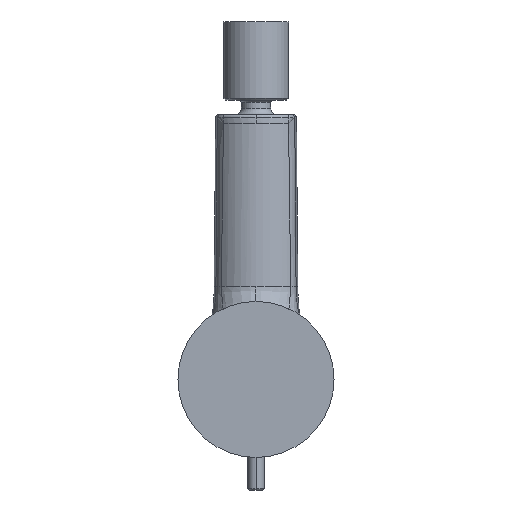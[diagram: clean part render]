
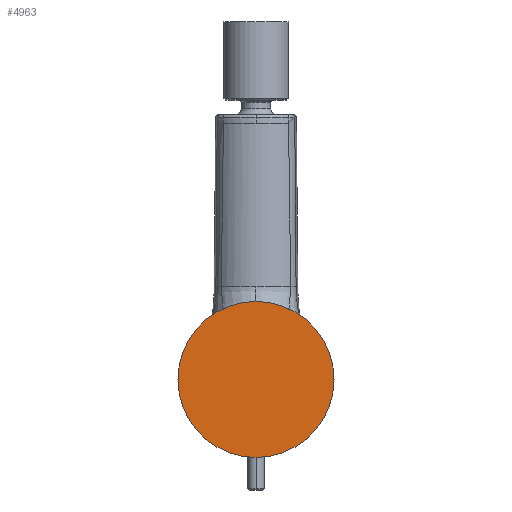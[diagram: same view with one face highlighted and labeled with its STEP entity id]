
A CAD part, front view. The second image highlights one B-rep face of the part: STEP entity #4963.
In plain terms, the highlighted planar face has unit normal (0, -1, 0).
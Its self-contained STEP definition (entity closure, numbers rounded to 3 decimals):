
#716=CARTESIAN_POINT('',(0.,-4.,0.));
#717=DIRECTION('',(0.,-1.,0.));
#718=DIRECTION('',(1.,0.,0.));
#719=AXIS2_PLACEMENT_3D('',#716,#717,#718);
#730=CARTESIAN_POINT('',(0.,-4.,0.));
#731=DIRECTION('',(0.,1.,0.));
#732=DIRECTION('',(1.,0.,0.));
#733=AXIS2_PLACEMENT_3D('',#730,#731,#732);
#2923=CARTESIAN_POINT('',(24.,-4.,0.));
#2924=CARTESIAN_POINT('',(-24.,-4.,0.));
#2925=VERTEX_POINT('',#2923);
#2926=VERTEX_POINT('',#2924);
#4954=CARTESIAN_POINT('',(0.,-4.,0.));
#4955=DIRECTION('',(0.,-1.,0.));
#4956=DIRECTION('',(0.,0.,-1.));
#4957=AXIS2_PLACEMENT_3D('',#4954,#4955,#4956);
#4958=PLANE('',#4957);
#4959=ORIENTED_EDGE('',*,*,#4934,.F.);
#4960=ORIENTED_EDGE('',*,*,#4948,.T.);
#4961=EDGE_LOOP('',(#4959,#4960));
#4962=FACE_OUTER_BOUND('',#4961,.F.);
#4963=ADVANCED_FACE('',(#4962),#4958,.T.);
#720=CIRCLE('',#719,24.);
#734=CIRCLE('',#733,24.);
#4934=EDGE_CURVE('',#2925,#2926,#720,.T.);
#4948=EDGE_CURVE('',#2925,#2926,#734,.T.);
